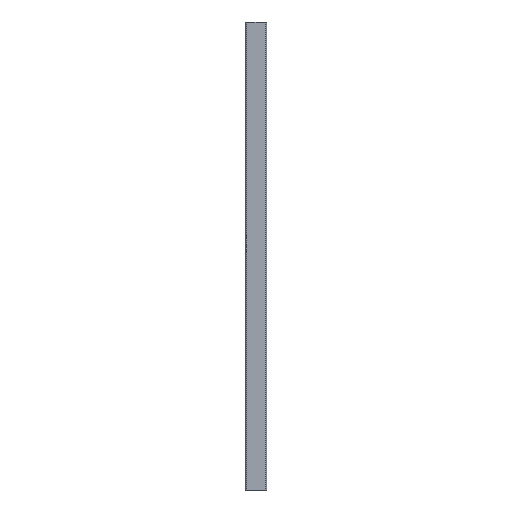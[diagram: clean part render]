
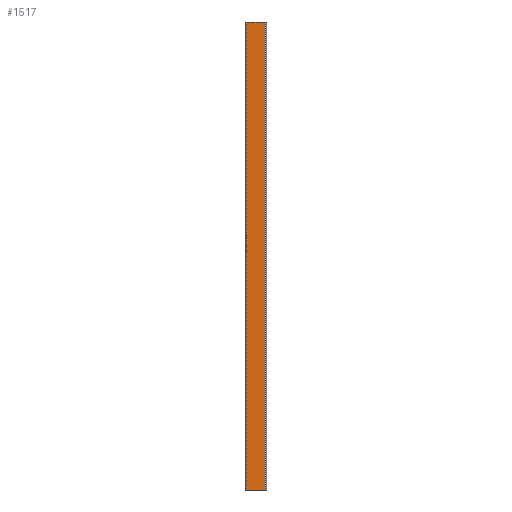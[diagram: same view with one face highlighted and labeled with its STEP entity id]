
A CAD part, left-side view. The second image highlights one B-rep face of the part: STEP entity #1517.
In plain terms, the highlighted planar face has unit normal (-1, 0, 0).
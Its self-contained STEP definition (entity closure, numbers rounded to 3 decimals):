
#37 = CARTESIAN_POINT ( 'NONE',  ( -22.5, 22.5, 500. ) ) ;
#161 = LINE ( 'NONE', #710, #2472 ) ;
#167 = CARTESIAN_POINT ( 'NONE',  ( -22.5, -19.5, -500. ) ) ;
#238 = CARTESIAN_POINT ( 'NONE',  ( -22.5, 22.5, 500. ) ) ;
#349 = VERTEX_POINT ( 'NONE', #528 ) ;
#525 = ORIENTED_EDGE ( 'NONE', *, *, #1239, .T. ) ;
#528 = CARTESIAN_POINT ( 'NONE',  ( -22.5, 19.5, -500. ) ) ;
#560 = ORIENTED_EDGE ( 'NONE', *, *, #2365, .T. ) ;
#710 = CARTESIAN_POINT ( 'NONE',  ( -22.5, 19.5, 500. ) ) ;
#812 = ORIENTED_EDGE ( 'NONE', *, *, #1357, .T. ) ;
#995 = DIRECTION ( 'NONE',  ( 0., 0., -1. ) ) ;
#1131 = VECTOR ( 'NONE', #2014, 1000. ) ;
#1141 = AXIS2_PLACEMENT_3D ( 'NONE', #238, #2342, #1525 ) ;
#1184 = ORIENTED_EDGE ( 'NONE', *, *, #1844, .F. ) ;
#1228 = DIRECTION ( 'NONE',  ( 0., 0., 1. ) ) ;
#1239 = EDGE_CURVE ( 'NONE', #1888, #349, #161, .T. ) ;
#1267 = VECTOR ( 'NONE', #1919, 1000. ) ;
#1330 = VECTOR ( 'NONE', #1228, 1000. ) ;
#1332 = CARTESIAN_POINT ( 'NONE',  ( -22.5, 19.5, 500. ) ) ;
#1357 = EDGE_CURVE ( 'NONE', #1953, #2351, #2671, .T. ) ;
#1418 = LINE ( 'NONE', #2228, #1131 ) ;
#1517 = ADVANCED_FACE ( 'NONE', ( #1920 ), #1714, .F. ) ;
#1525 = DIRECTION ( 'NONE',  ( 0., 0., -1. ) ) ;
#1714 = PLANE ( 'NONE',  #1141 ) ;
#1844 = EDGE_CURVE ( 'NONE', #1888, #2351, #2517, .T. ) ;
#1888 = VERTEX_POINT ( 'NONE', #1332 ) ;
#1912 = EDGE_LOOP ( 'NONE', ( #560, #812, #1184, #525 ) ) ;
#1919 = DIRECTION ( 'NONE',  ( 0., -1., 0. ) ) ;
#1920 = FACE_OUTER_BOUND ( 'NONE', #1912, .T. ) ;
#1953 = VERTEX_POINT ( 'NONE', #167 ) ;
#2014 = DIRECTION ( 'NONE',  ( 0., -1., 0. ) ) ;
#2228 = CARTESIAN_POINT ( 'NONE',  ( -22.5, 22.5, -500. ) ) ;
#2342 = DIRECTION ( 'NONE',  ( 1., 0., 0. ) ) ;
#2351 = VERTEX_POINT ( 'NONE', #2597 ) ;
#2365 = EDGE_CURVE ( 'NONE', #349, #1953, #1418, .T. ) ;
#2472 = VECTOR ( 'NONE', #995, 1000. ) ;
#2495 = CARTESIAN_POINT ( 'NONE',  ( -22.5, -19.5, 500. ) ) ;
#2517 = LINE ( 'NONE', #37, #1267 ) ;
#2597 = CARTESIAN_POINT ( 'NONE',  ( -22.5, -19.5, 500. ) ) ;
#2671 = LINE ( 'NONE', #2495, #1330 ) ;
